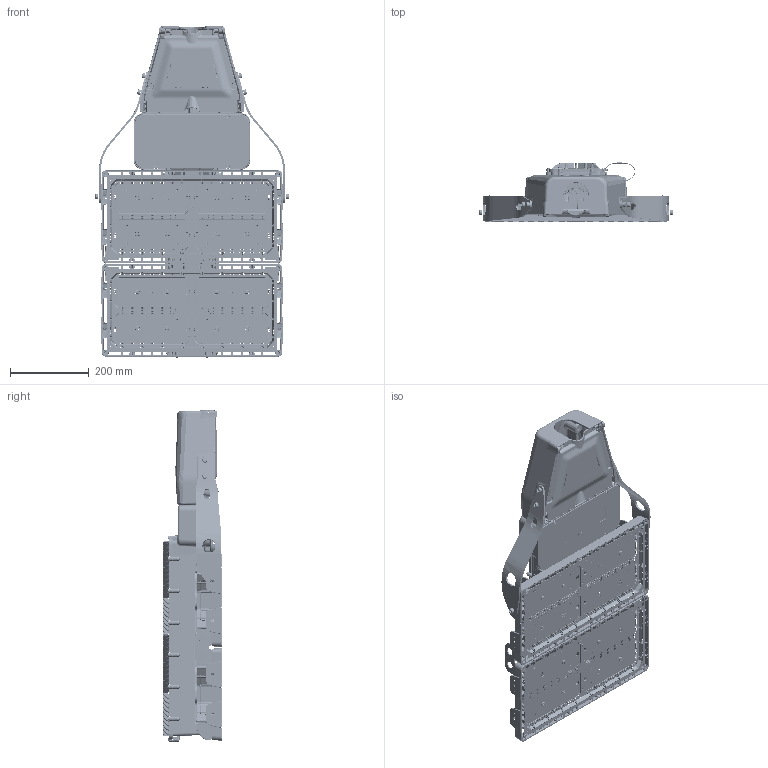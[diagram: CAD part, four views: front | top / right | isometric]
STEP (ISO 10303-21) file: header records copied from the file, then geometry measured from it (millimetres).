
FILE_DESCRIPTION((''),'2;1');
FILE_NAME('MARK_1SW','2023-02-22T15:59:36',('NSharma'),(''),'CREO PARAMETRIC BY PTC INC, 2021304','CREO PARAMETRIC BY PTC INC, 2021304','');
FILE_SCHEMA(('CONFIG_CONTROL_DESIGN'));
Products named in the file (1): MARK_1SW
Bounding box: 490.45 x 150.5 x 843.39 mm (x, y, z)
Surface area: 2293547.6 mm2 (no closed solid volume)
Topology: 0 solids, 1047 shells, 11526 faces, 47695 edges, 36202 vertices
Faces by surface type: plane 3475, cylinder 2916, bspline 2644, cone 1493, torus 957, sphere 39, extrusion 2
Entity records: 693455 total; most frequent: CARTESIAN_POINT 357212, ORIENTED_EDGE 63874, DIRECTION 57854, EDGE_CURVE 47691, VERTEX_POINT 36202, AXIS2_PLACEMENT_3D 19997, B_SPLINE_CURVE_WITH_KNOTS 18718, VECTOR 17860
